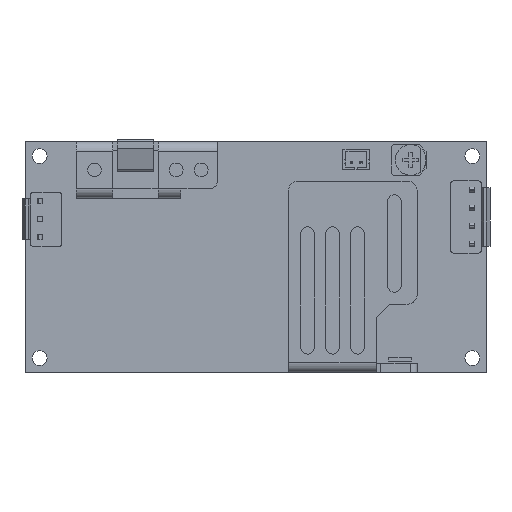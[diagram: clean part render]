
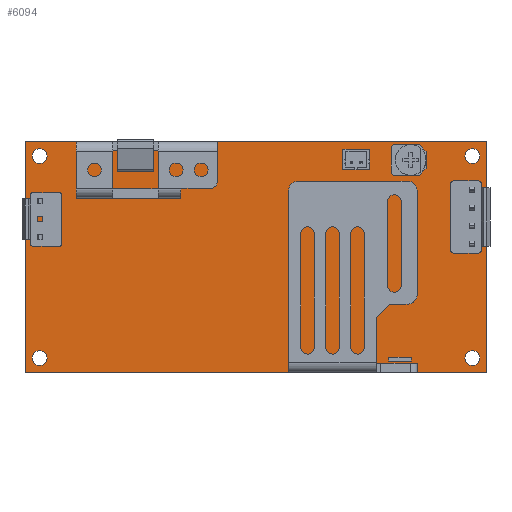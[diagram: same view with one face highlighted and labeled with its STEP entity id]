
A CAD part, top view. The second image highlights one B-rep face of the part: STEP entity #6094.
In plain terms, the highlighted planar face has unit normal (0, 0, 1).
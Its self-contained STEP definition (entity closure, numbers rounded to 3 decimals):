
#5947=CARTESIAN_POINT('',(180.075,173.175,0.0));
#5948=VERTEX_POINT('',#5947);
#5949=CARTESIAN_POINT('',(178.425,173.175,0.0));
#5950=DIRECTION('',(0.0,0.0,-1.0));
#5951=DIRECTION('',(-1.0,0.0,0.0));
#5952=AXIS2_PLACEMENT_3D('',#5949,#5950,#5951);
#5953=CIRCLE('',#5952,1.65);
#5954=EDGE_CURVE('',#5948,#5948,#5953,.T.);
#5975=CARTESIAN_POINT('',(275.325,173.175,0.0));
#5976=VERTEX_POINT('',#5975);
#5977=CARTESIAN_POINT('',(273.675,173.175,0.0));
#5978=DIRECTION('',(0.0,0.0,-1.0));
#5979=DIRECTION('',(-1.0,0.0,0.0));
#5980=AXIS2_PLACEMENT_3D('',#5977,#5978,#5979);
#5981=CIRCLE('',#5980,1.65);
#5982=EDGE_CURVE('',#5976,#5976,#5981,.T.);
#6003=CARTESIAN_POINT('',(275.325,217.625,0.0));
#6004=VERTEX_POINT('',#6003);
#6005=CARTESIAN_POINT('',(273.675,217.625,0.0));
#6006=DIRECTION('',(0.0,0.0,-1.0));
#6007=DIRECTION('',(-1.0,0.0,0.0));
#6008=AXIS2_PLACEMENT_3D('',#6005,#6006,#6007);
#6009=CIRCLE('',#6008,1.65);
#6010=EDGE_CURVE('',#6004,#6004,#6009,.T.);
#6031=CARTESIAN_POINT('',(180.075,217.625,0.0));
#6032=VERTEX_POINT('',#6031);
#6033=CARTESIAN_POINT('',(178.425,217.625,0.0));
#6034=DIRECTION('',(0.0,0.0,-1.0));
#6035=DIRECTION('',(-1.0,0.0,0.0));
#6036=AXIS2_PLACEMENT_3D('',#6033,#6034,#6035);
#6037=CIRCLE('',#6036,1.65);
#6038=EDGE_CURVE('',#6032,#6032,#6037,.T.);
#6043=CARTESIAN_POINT('',(0.0,0.0,0.0));
#6044=DIRECTION('',(0.0,0.0,1.0));
#6045=DIRECTION('',(1.0,0.0,0.0));
#6046=AXIS2_PLACEMENT_3D('',#6043,#6044,#6045);
#6047=PLANE('',#6046);
#6048=CARTESIAN_POINT('',(276.85,170.,0.0));
#6049=VERTEX_POINT('',#6048);
#6050=CARTESIAN_POINT('',(276.85,220.8,0.0));
#6051=VERTEX_POINT('',#6050);
#6052=CARTESIAN_POINT('',(276.85,170.,0.0));
#6053=DIRECTION('',(0.0,1.0,0.0));
#6054=VECTOR('',#6053,50.8);
#6055=LINE('',#6052,#6054);
#6056=EDGE_CURVE('',#6049,#6051,#6055,.T.);
#6057=ORIENTED_EDGE('',*,*,#6056,.T.);
#6058=CARTESIAN_POINT('',(175.25,220.8,0.0));
#6059=VERTEX_POINT('',#6058);
#6060=CARTESIAN_POINT('',(276.85,220.8,0.0));
#6061=DIRECTION('',(-1.0,0.0,0.0));
#6062=VECTOR('',#6061,101.6);
#6063=LINE('',#6060,#6062);
#6064=EDGE_CURVE('',#6051,#6059,#6063,.T.);
#6065=ORIENTED_EDGE('',*,*,#6064,.T.);
#6066=CARTESIAN_POINT('',(175.25,170.,0.0));
#6067=VERTEX_POINT('',#6066);
#6068=CARTESIAN_POINT('',(175.25,220.8,0.0));
#6069=DIRECTION('',(0.0,-1.0,0.0));
#6070=VECTOR('',#6069,50.8);
#6071=LINE('',#6068,#6070);
#6072=EDGE_CURVE('',#6059,#6067,#6071,.T.);
#6073=ORIENTED_EDGE('',*,*,#6072,.T.);
#6074=CARTESIAN_POINT('',(175.25,170.,0.0));
#6075=DIRECTION('',(1.0,0.0,0.0));
#6076=VECTOR('',#6075,101.6);
#6077=LINE('',#6074,#6076);
#6078=EDGE_CURVE('',#6067,#6049,#6077,.T.);
#6079=ORIENTED_EDGE('',*,*,#6078,.T.);
#6080=EDGE_LOOP('',(#6057,#6065,#6073,#6079));
#6081=FACE_OUTER_BOUND('',#6080,.T.);
#6082=ORIENTED_EDGE('',*,*,#5954,.T.);
#6083=EDGE_LOOP('',(#6082));
#6084=FACE_BOUND('',#6083,.T.);
#6085=ORIENTED_EDGE('',*,*,#5982,.T.);
#6086=EDGE_LOOP('',(#6085));
#6087=FACE_BOUND('',#6086,.T.);
#6088=ORIENTED_EDGE('',*,*,#6010,.T.);
#6089=EDGE_LOOP('',(#6088));
#6090=FACE_BOUND('',#6089,.T.);
#6091=ORIENTED_EDGE('',*,*,#6038,.T.);
#6092=EDGE_LOOP('',(#6091));
#6093=FACE_BOUND('',#6092,.T.);
#6094=ADVANCED_FACE('',(#6081,#6084,#6087,#6090,#6093),#6047,.T.);
